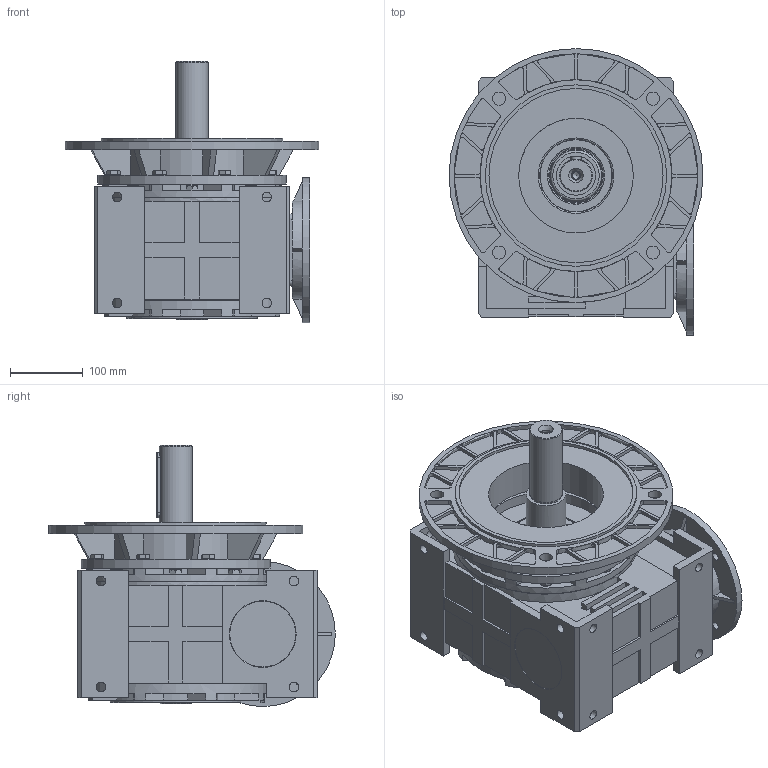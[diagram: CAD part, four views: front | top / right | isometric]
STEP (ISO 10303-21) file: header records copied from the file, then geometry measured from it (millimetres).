
FILE_DESCRIPTION (( 'STEP AP203' ), '1' );
FILE_NAME ('MR-120_90B5_K350_2_WJ_2_3D.STEP', '2019-01-23T08:56:56', ( 'Biuro' ), ( 'Microsoft' ), 'SwSTEP 2.0', 'SolidWorks 2013', '' );
FILE_SCHEMA (( 'CONFIG_CONTROL_DESIGN' ));
Length unit declared in the file: millimetre
Products named in the file (1): MR-120_90B5_K350_2_WJ_2_3D
Bounding box: 350 x 395 x 360 mm (x, y, z)
Volume: 15189784.5 mm3; surface area: 981952.1 mm2
Topology: 1 solids, 24 shells, 1285 faces, 3246 edges, 2071 vertices
Faces by surface type: plane 781, cylinder 319, cone 147, torus 37, bspline 1
Full cylindrical faces by diameter (mm): 2.5 x2, 8.5 x8, 10 x28, 10.2 x1, 10.5 x4, 11 x12, 13 x13, 16 x20, 18 x4, 24 x1, 32 x1, 42.5 x1, 44.6 x3, 45 x5, 45.2 x1, 54 x1, 55 x2, 58 x1, 60 x1, 60.861 x1, 70 x2, 76 x1, 80 x1, 100 x2, 129.5 x1, 130 x1, 135 x1, 158 x1, 164 x1, 166 x1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
Entity records: 37962 total; most frequent: CARTESIAN_POINT 7808, DIRECTION 6399, ORIENTED_EDGE 5890, EDGE_CURVE 2945, AXIS2_PLACEMENT_3D 2386, VERTEX_POINT 1984, EDGE_LOOP 1643, VECTOR 1627
